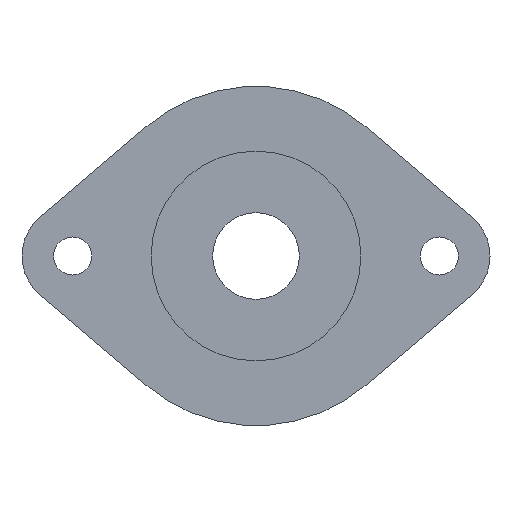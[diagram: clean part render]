
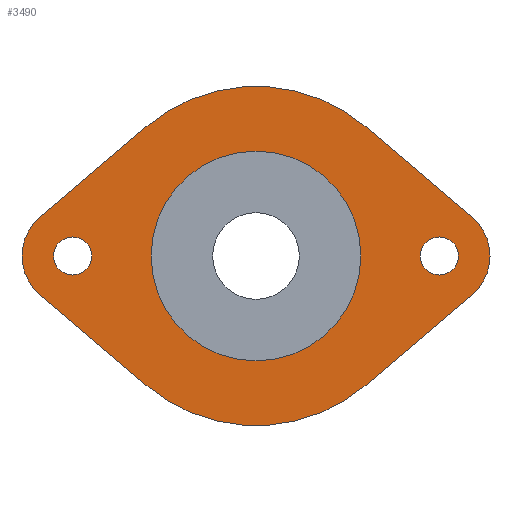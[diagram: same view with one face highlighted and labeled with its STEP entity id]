
A CAD part, left-side view. The second image highlights one B-rep face of the part: STEP entity #3490.
In plain terms, the highlighted planar face has unit normal (-1, 0, 0).
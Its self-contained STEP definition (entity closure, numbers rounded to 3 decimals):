
#120=CARTESIAN_POINT('',(-8.4,19.043,22.334));
#130=VERTEX_POINT('',#120);
#160=CARTESIAN_POINT('',(-8.4,0.,38.571));
#170=DIRECTION('',(0.,0.761,-0.649));
#180=VECTOR('',#170,1.);
#190=LINE('',#160,#180);
#200=CARTESIAN_POINT('',(-8.4,37.427,6.658));
#210=VERTEX_POINT('',#200);
#220=EDGE_CURVE('',#130,#210,#190,.T.);
#520=CARTESIAN_POINT('',(-8.4,-19.043,22.334));
#530=VERTEX_POINT('',#520);
#560=CARTESIAN_POINT('',(-8.4,0.,0.));
#570=DIRECTION('',(-1.,0.,0.));
#580=DIRECTION('',(0.,0.649,0.761));
#590=AXIS2_PLACEMENT_3D('',#560,#570,#580);
#600=CIRCLE('',#590,29.35);
#610=EDGE_CURVE('',#530,#130,#600,.T.);
#850=CARTESIAN_POINT('',(-8.4,-37.427,6.658));
#860=VERTEX_POINT('',#850);
#890=CARTESIAN_POINT('',(-8.4,0.,38.571));
#900=DIRECTION('',(0.,0.761,0.649));
#910=VECTOR('',#900,1.);
#920=LINE('',#890,#910);
#930=EDGE_CURVE('',#860,#530,#920,.T.);
#1160=CARTESIAN_POINT('',(-8.4,-37.427,-6.658));
#1170=VERTEX_POINT('',#1160);
#1200=CARTESIAN_POINT('',(-8.4,-31.75,0.));
#1210=DIRECTION('',(-1.,0.,0.));
#1220=DIRECTION('',(0.,-0.649,0.761));
#1230=AXIS2_PLACEMENT_3D('',#1200,#1210,#1220);
#1240=CIRCLE('',#1230,8.75);
#1250=EDGE_CURVE('',#1170,#860,#1240,.T.);
#1490=CARTESIAN_POINT('',(-8.4,-19.043,-22.334));
#1500=VERTEX_POINT('',#1490);
#1530=CARTESIAN_POINT('',(-8.4,0.,-38.571));
#1540=DIRECTION('',(0.,-0.761,0.649));
#1550=VECTOR('',#1540,1.);
#1560=LINE('',#1530,#1550);
#1570=EDGE_CURVE('',#1500,#1170,#1560,.T.);
#1800=CARTESIAN_POINT('',(-8.4,19.043,-22.334));
#1810=VERTEX_POINT('',#1800);
#1840=CARTESIAN_POINT('',(-8.4,0.,0.));
#1850=DIRECTION('',(-1.,0.,0.));
#1860=DIRECTION('',(0.,-0.649,-0.761));
#1870=AXIS2_PLACEMENT_3D('',#1840,#1850,#1860);
#1880=CIRCLE('',#1870,29.35);
#1890=EDGE_CURVE('',#1810,#1500,#1880,.T.);
#2130=CARTESIAN_POINT('',(-8.4,37.427,-6.658));
#2140=VERTEX_POINT('',#2130);
#2170=CARTESIAN_POINT('',(-8.4,0.,-38.571));
#2180=DIRECTION('',(0.,-0.761,-0.649));
#2190=VECTOR('',#2180,1.);
#2200=LINE('',#2170,#2190);
#2210=EDGE_CURVE('',#2140,#1810,#2200,.T.);
#2390=CARTESIAN_POINT('',(-8.4,31.75,0.));
#2400=DIRECTION('',(-1.,0.,0.));
#2410=DIRECTION('',(0.,0.649,-0.761));
#2420=AXIS2_PLACEMENT_3D('',#2390,#2400,#2410);
#2430=CIRCLE('',#2420,8.75);
#2440=EDGE_CURVE('',#210,#2140,#2430,.T.);
#2680=CARTESIAN_POINT('',(-8.4,31.75,-3.3));
#2690=VERTEX_POINT('',#2680);
#2850=CARTESIAN_POINT('',(-8.4,31.75,3.3));
#2860=VERTEX_POINT('',#2850);
#2890=CARTESIAN_POINT('',(-8.4,31.75,0.));
#2900=DIRECTION('',(-1.,0.,0.));
#2910=DIRECTION('',(0.,0.,-1.));
#2920=AXIS2_PLACEMENT_3D('',#2890,#2900,#2910);
#2930=CIRCLE('',#2920,3.3);
#2940=EDGE_CURVE('',#2690,#2860,#2930,.T.);
#2990=CARTESIAN_POINT('',(-8.4,50.995,0.));
#3000=DIRECTION('',(-1.,0.,0.));
#3010=DIRECTION('',(0.,1.,0.));
#3020=AXIS2_PLACEMENT_3D('',#2990,#3000,#3010);
#3030=PLANE('',#3020);
#3040=ORIENTED_EDGE('',*,*,#220,.T.);
#3050=ORIENTED_EDGE('',*,*,#610,.T.);
#3060=ORIENTED_EDGE('',*,*,#930,.T.);
#3070=ORIENTED_EDGE('',*,*,#1250,.T.);
#3080=ORIENTED_EDGE('',*,*,#1570,.T.);
#3090=ORIENTED_EDGE('',*,*,#1890,.T.);
#3100=ORIENTED_EDGE('',*,*,#2210,.T.);
#3110=ORIENTED_EDGE('',*,*,#2440,.T.);
#3120=EDGE_LOOP('',(#3110,#3100,#3090,#3080,#3070,#3060,#3050,#3040));
#3130=FACE_OUTER_BOUND('',#3120,.T.);
#3140=CARTESIAN_POINT('',(-8.4,-31.75,0.));
#3150=DIRECTION('',(-1.,0.,0.));
#3160=DIRECTION('',(0.,0.,-1.));
#3170=AXIS2_PLACEMENT_3D('',#3140,#3150,#3160);
#3180=CIRCLE('',#3170,3.3);
#3190=CARTESIAN_POINT('',(-8.4,-31.75,-3.3));
#3200=VERTEX_POINT('',#3190);
#3210=CARTESIAN_POINT('',(-8.4,-31.75,3.3));
#3220=VERTEX_POINT('',#3210);
#3230=EDGE_CURVE('',#3200,#3220,#3180,.T.);
#3240=ORIENTED_EDGE('',*,*,#3230,.F.);
#3250=EDGE_CURVE('',#3220,#3200,#3180,.T.);
#3260=ORIENTED_EDGE('',*,*,#3250,.F.);
#3270=EDGE_LOOP('',(#3260,#3240));
#3280=FACE_BOUND('',#3270,.T.);
#3290=CARTESIAN_POINT('',(-8.4,0.,0.));
#3300=DIRECTION('',(-1.,0.,0.));
#3310=DIRECTION('',(0.,1.,0.));
#3320=AXIS2_PLACEMENT_3D('',#3290,#3300,#3310);
#3330=CIRCLE('',#3320,18.15);
#3340=CARTESIAN_POINT('',(-8.4,18.15,0.));
#3350=VERTEX_POINT('',#3340);
#3360=CARTESIAN_POINT('',(-8.4,-18.15,0.))
;
#3370=VERTEX_POINT('',#3360);
#3380=EDGE_CURVE('',#3350,#3370,#3330,.T.);
#3390=ORIENTED_EDGE('',*,*,#3380,.F.);
#3400=EDGE_CURVE('',#3370,#3350,#3330,.T.);
#3410=ORIENTED_EDGE('',*,*,#3400,.F.);
#3420=EDGE_LOOP('',(#3410,#3390));
#3430=FACE_BOUND('',#3420,.T.);
#3440=EDGE_CURVE('',#2860,#2690,#2930,.T.);
#3450=ORIENTED_EDGE('',*,*,#3440,.F.);
#3460=ORIENTED_EDGE('',*,*,#2940,.F.);
#3470=EDGE_LOOP('',(#3460,#3450));
#3480=FACE_BOUND('',#3470,.T.);
#3490=ADVANCED_FACE('',(#3130,#3280,#3430,#3480),#3030,.T.);
